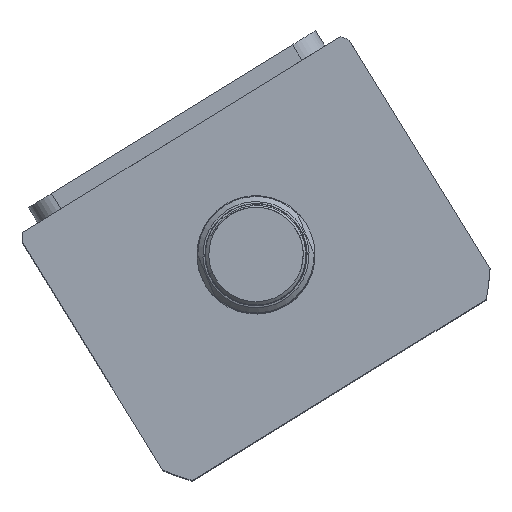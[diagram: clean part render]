
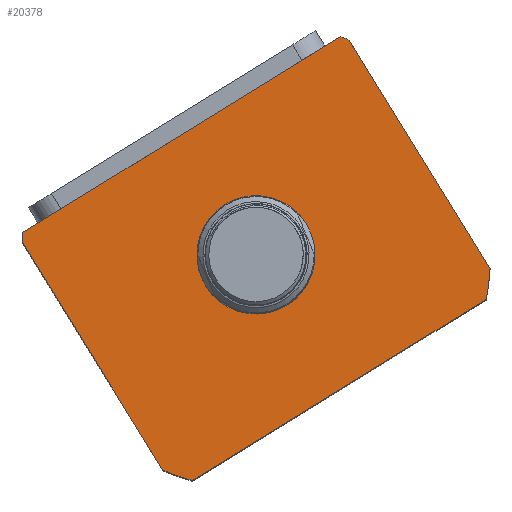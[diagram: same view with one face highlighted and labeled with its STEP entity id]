
A CAD part, top view. The second image highlights one B-rep face of the part: STEP entity #20378.
In plain terms, the highlighted planar face has unit normal (0, 0, 1) as drawn and (0, 0, -1) by its records, which use the part's own axes.
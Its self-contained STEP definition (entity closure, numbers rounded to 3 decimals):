
#617 = CARTESIAN_POINT ( 'NONE',  ( 0., -59.497, 0. ) ) ;
#1098 = CIRCLE ( 'NONE', #5306, 69.5 ) ;
#1473 = EDGE_CURVE ( 'NONE', #16329, #4805, #14015, .T. ) ;
#1518 = DIRECTION ( 'NONE',  ( 0., 0., 1. ) ) ;
#1701 = DIRECTION ( 'NONE',  ( 0., -1., 0. ) ) ;
#2022 = CIRCLE ( 'NONE', #2114, 17.5 ) ;
#2114 = AXIS2_PLACEMENT_3D ( 'NONE', #14465, #1518, #16643 ) ;
#2413 = CARTESIAN_POINT ( 'NONE',  ( 0., -59.497, 0. ) ) ;
#2784 = DIRECTION ( 'NONE',  ( 1., 0., 0. ) ) ;
#3495 = AXIS2_PLACEMENT_3D ( 'NONE', #2413, #17535, #4587 ) ;
#3797 = ORIENTED_EDGE ( 'NONE', *, *, #13784, .F. ) ;
#3956 = ORIENTED_EDGE ( 'NONE', *, *, #1473, .F. ) ;
#4138 = CARTESIAN_POINT ( 'NONE',  ( 0., -59.497, 0. ) ) ;
#4448 = VERTEX_POINT ( 'NONE', #8584 ) ;
#4533 = EDGE_CURVE ( 'NONE', #6168, #16329, #1098, .T. ) ;
#4587 = DIRECTION ( 'NONE',  ( 1., 0., 0. ) ) ;
#4805 = VERTEX_POINT ( 'NONE', #5325 ) ;
#4943 = AXIS2_PLACEMENT_3D ( 'NONE', #617, #15742, #2784 ) ;
#5238 = VERTEX_POINT ( 'NONE', #21720 ) ;
#5306 = AXIS2_PLACEMENT_3D ( 'NONE', #24003, #11140, #26168 ) ;
#5325 = CARTESIAN_POINT ( 'NONE',  ( 57., -19.732, 0. ) ) ;
#5665 = CARTESIAN_POINT ( 'NONE',  ( -57., -106.497, 0. ) ) ;
#6168 = VERTEX_POINT ( 'NONE', #20513 ) ;
#6333 = DIRECTION ( 'NONE',  ( 1., 0., 0. ) ) ;
#6440 = ORIENTED_EDGE ( 'NONE', *, *, #6458, .F. ) ;
#6458 = EDGE_CURVE ( 'NONE', #15652, #16666, #18653, .T. ) ;
#7260 = CIRCLE ( 'NONE', #4943, 17.5 ) ;
#7477 = CARTESIAN_POINT ( 'NONE',  ( 17.5, -59.497, 0. ) ) ;
#7479 = VERTEX_POINT ( 'NONE', #26807 ) ;
#7670 = EDGE_CURVE ( 'NONE', #5238, #15652, #25010, .T. ) ;
#7709 = AXIS2_PLACEMENT_3D ( 'NONE', #10071, #25098, #12230 ) ;
#7947 = CARTESIAN_POINT ( 'NONE',  ( -57., -17.497, 0. ) ) ;
#8355 = CIRCLE ( 'NONE', #19270, 69.5 ) ;
#8584 = CARTESIAN_POINT ( 'NONE',  ( 55.374, -17.497, 0. ) ) ;
#8610 = CIRCLE ( 'NONE', #3495, 69.5 ) ;
#8729 = CARTESIAN_POINT ( 'NONE',  ( 0., -59.497, 0. ) ) ;
#8986 = VERTEX_POINT ( 'NONE', #11901 ) ;
#9378 = ORIENTED_EDGE ( 'NONE', *, *, #7670, .F. ) ;
#10071 = CARTESIAN_POINT ( 'NONE',  ( 0., 0., 0. ) ) ;
#10444 = ORIENTED_EDGE ( 'NONE', *, *, #23700, .F. ) ;
#10460 = LINE ( 'NONE', #5665, #21218 ) ;
#10920 = DIRECTION ( 'NONE',  ( 1., 0., 0. ) ) ;
#11140 = DIRECTION ( 'NONE',  ( 0., 0., 1. ) ) ;
#11724 = ORIENTED_EDGE ( 'NONE', *, *, #17208, .F. ) ;
#11901 = CARTESIAN_POINT ( 'NONE',  ( -17.5, -59.497, 0. ) ) ;
#12230 = DIRECTION ( 'NONE',  ( 1., 0., 0. ) ) ;
#12942 = EDGE_CURVE ( 'NONE', #8986, #13605, #2022, .T. ) ;
#13248 = AXIS2_PLACEMENT_3D ( 'NONE', #8729, #23775, #10920 ) ;
#13585 = VECTOR ( 'NONE', #1701, 1000. ) ;
#13605 = VERTEX_POINT ( 'NONE', #7477 ) ;
#13784 = EDGE_CURVE ( 'NONE', #4448, #5238, #18931, .T. ) ;
#13803 = EDGE_LOOP ( 'NONE', ( #19573, #20582 ) ) ;
#14015 = LINE ( 'NONE', #16961, #24112 ) ;
#14465 = CARTESIAN_POINT ( 'NONE',  ( 0., -59.497, 0. ) ) ;
#15439 = FACE_BOUND ( 'NONE', #13803, .T. ) ;
#15652 = VERTEX_POINT ( 'NONE', #18968 ) ;
#15742 = DIRECTION ( 'NONE',  ( 0., 0., 1. ) ) ;
#15978 = CARTESIAN_POINT ( 'NONE',  ( -57., -99.262, 0. ) ) ;
#16111 = FACE_OUTER_BOUND ( 'NONE', #25073, .T. ) ;
#16329 = VERTEX_POINT ( 'NONE', #26895 ) ;
#16643 = DIRECTION ( 'NONE',  ( 1., 0., 0. ) ) ;
#16666 = VERTEX_POINT ( 'NONE', #15978 ) ;
#16961 = CARTESIAN_POINT ( 'NONE',  ( 57., -17.497, 0. ) ) ;
#17208 = EDGE_CURVE ( 'NONE', #7479, #6168, #10460, .T. ) ;
#17535 = DIRECTION ( 'NONE',  ( 0., 0., 1. ) ) ;
#18257 = VECTOR ( 'NONE', #25251, 1000. ) ;
#18519 = DIRECTION ( 'NONE',  ( 1., 0., 0. ) ) ;
#18653 = LINE ( 'NONE', #25377, #13585 ) ;
#18673 = DIRECTION ( 'NONE',  ( 0., 1., 0. ) ) ;
#18931 = LINE ( 'NONE', #7947, #18257 ) ;
#18968 = CARTESIAN_POINT ( 'NONE',  ( -57., -19.732, 0. ) ) ;
#19266 = DIRECTION ( 'NONE',  ( 0., 0., 1. ) ) ;
#19270 = AXIS2_PLACEMENT_3D ( 'NONE', #4138, #19266, #6333 ) ;
#19573 = ORIENTED_EDGE ( 'NONE', *, *, #23865, .T. ) ;
#20378 = ADVANCED_FACE ( 'NONE', ( #15439, #16111 ), #22926, .F. ) ;
#20513 = CARTESIAN_POINT ( 'NONE',  ( 51.198, -106.497, 0. ) ) ;
#20582 = ORIENTED_EDGE ( 'NONE', *, *, #12942, .T. ) ;
#20633 = EDGE_CURVE ( 'NONE', #4805, #4448, #8355, .T. ) ;
#21218 = VECTOR ( 'NONE', #18519, 1000. ) ;
#21720 = CARTESIAN_POINT ( 'NONE',  ( -55.374, -17.497, 0. ) ) ;
#22005 = ORIENTED_EDGE ( 'NONE', *, *, #4533, .F. ) ;
#22926 = PLANE ( 'NONE',  #7709 ) ;
#23700 = EDGE_CURVE ( 'NONE', #16666, #7479, #8610, .T. ) ;
#23775 = DIRECTION ( 'NONE',  ( 0., 0., 1. ) ) ;
#23865 = EDGE_CURVE ( 'NONE', #13605, #8986, #7260, .T. ) ;
#24003 = CARTESIAN_POINT ( 'NONE',  ( 0., -59.497, 0. ) ) ;
#24112 = VECTOR ( 'NONE', #18673, 1000. ) ;
#25010 = CIRCLE ( 'NONE', #13248, 69.5 ) ;
#25073 = EDGE_LOOP ( 'NONE', ( #25498, #3956, #22005, #11724, #10444, #6440, #9378, #3797 ) ) ;
#25098 = DIRECTION ( 'NONE',  ( 0., 0., 1. ) ) ;
#25251 = DIRECTION ( 'NONE',  ( -1., 0., 0. ) ) ;
#25377 = CARTESIAN_POINT ( 'NONE',  ( -57., -17.497, 0. ) ) ;
#25498 = ORIENTED_EDGE ( 'NONE', *, *, #20633, .F. ) ;
#26168 = DIRECTION ( 'NONE',  ( 1., 0., 0. ) ) ;
#26807 = CARTESIAN_POINT ( 'NONE',  ( -51.198, -106.497, 0. ) ) ;
#26895 = CARTESIAN_POINT ( 'NONE',  ( 57., -99.262, 0. ) ) ;
